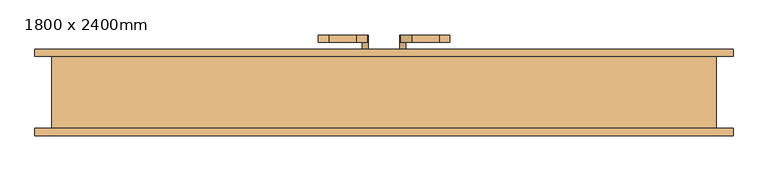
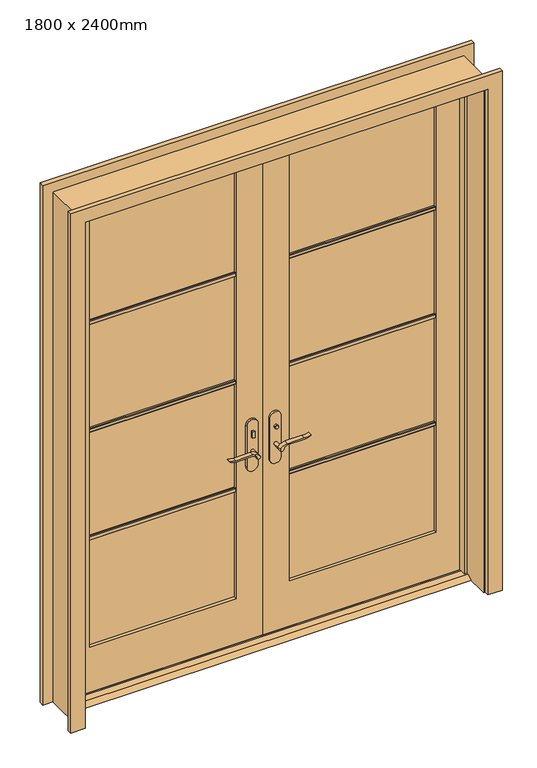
"""IFC4 building model written with IfcOpenShell, lengths in millimetres: door geometry, M_Dveře, vnější, dvoukřídlé, prosklené, dřevo, obklad : 1800 x 2400mm."""

from ifc_helpers import new_model, si_unit, point, frame, frame_2d, origin, place, context, project, spatial, polyline, circle_curve, trimmed, segment, composite_curve, outline, extrude, faceted_brep, source, transform, mapped, element, save


def door_1800_x_2400mm_5ec7ffea(model_context):
    return source(origin(), model_context, "Body", "SolidModel", [
        extrude(outline(polyline([(18.975, 15.0), (53.975, 15.0), (79.375, 0.0), (-6.425, 0.0), (18.975, 15.0)])), frame((-900.0, 0.0, 0.0), z_axis=(1.0, 0.0, 0.0), x_axis=(0.0, 1.0, 0.0)), (0.0, 0.0, 1.0), 1800.0),
        extrude(outline(polyline([(-47.4019111, 41.825), (-57.4019111, 41.825), (-57.4019111, 51.825), (-47.4019111, 51.825), (-47.4019111, 41.825)])), frame((0.0, 0.0, 981.9), z_axis=(0.0, 0.0, 1.0), x_axis=(1.0, 0.0, 0.0)), (0.0, 0.0, 1.0), 30.0),
        extrude(outline(composite_curve([segment(trimmed(circle_curve(frame_2d((996.9, -52.4019111)), 8.0), [point((996.9, -60.4019111))], [point((996.9, -44.4019111))], False, "CARTESIAN"), True, "CONTINUOUS"), segment(trimmed(circle_curve(frame_2d((996.9, -52.4019111)), 8.0), [point((996.9, -44.4019111))], [point((996.9, -60.4019111))], False, "CARTESIAN"), True, "CONTINUOUS")], self_intersect=False)), frame((0.0, 106.825, 0.0), z_axis=(0.0, 1.0, 0.0), x_axis=(0.0, 0.0, 1.0)), (0.0, 0.0, 1.0), 10.0),
        extrude(outline(composite_curve([segment(trimmed(circle_curve(frame_2d((897.1555521, -76.0694241)), 37.2832219), [point((919.0523287, -45.8937749))], [point((934.4, -77.7693445))], False, "CARTESIAN"), True, "CONTINUOUS"), segment(polyline([(934.4, -77.7693445), (934.4, -154.045502)]), True, "CONTINUOUS"), segment(trimmed(circle_curve(frame_2d((1017.6850638, -153.9791202)), 83.2850902), [point((934.4, -154.045502))], [point((939.4, -182.4019111))], True, "CARTESIAN"), True, "CONTINUOUS"), segment(polyline([(939.4, -182.4019111), (936.6135558, -182.4019111)]), True, "CONTINUOUS"), segment(trimmed(circle_curve(frame_2d((986.6709207, -150.4622499)), 59.3791355), [point((936.6135558, -182.4019111))], [point((927.4, -154.045502))], False, "CARTESIAN"), True, "CONTINUOUS"), segment(polyline([(927.4, -154.045502), (927.4, -77.7881013)]), True, "CONTINUOUS"), segment(trimmed(circle_curve(frame_2d((909.2738613, -77.7881013)), 18.1261387), [point((927.4, -77.7881013))], [point((914.4, -60.4019111))], True, "CARTESIAN"), True, "CONTINUOUS"), segment(trimmed(circle_curve(frame_2d((914.4, -52.4019111)), 8.0), [point((914.4, -60.4019111))], [point((919.0523287, -45.8937749))], False, "CARTESIAN"), True, "CONTINUOUS")], self_intersect=False)), frame((0.0, 1.825, 0.0), z_axis=(0.0, 1.0, 0.0), x_axis=(0.0, 0.0, 1.0)), (0.0, 0.0, 1.0), 20.0),
        extrude(outline(composite_curve([segment(trimmed(circle_curve(frame_2d((914.4, -52.4019111)), 8.0), [point((914.3999903, -60.4019111))], [point((919.0523287, -45.8937749))], False, "CARTESIAN"), True, "CONTINUOUS"), segment(trimmed(circle_curve(frame_2d((897.1555521, -76.0694241)), 37.2832219), [point((919.0523287, -45.8937749))], [point((934.4, -77.7693445))], False, "CARTESIAN"), True, "CONTINUOUS"), segment(polyline([(934.4, -77.7693445), (934.4, -154.045502)]), True, "CONTINUOUS"), segment(trimmed(circle_curve(frame_2d((1017.6850638, -153.9791202)), 83.2850902), [point((934.4, -154.045502))], [point((939.4, -182.4019111))], True, "CARTESIAN"), True, "CONTINUOUS"), segment(polyline([(939.4, -182.4019111), (936.6135558, -182.4019111)]), True, "CONTINUOUS"), segment(trimmed(circle_curve(frame_2d((986.6709207, -150.4622499)), 59.3791355), [point((936.6135558, -182.4019111))], [point((927.4, -154.045502))], False, "CARTESIAN"), True, "CONTINUOUS"), segment(polyline([(927.4, -154.045502), (927.4, -77.788099)]), True, "CONTINUOUS"), segment(trimmed(circle_curve(frame_2d((909.2738682, -77.788099)), 18.1261318), [point((927.4, -77.788099))], [point((914.3999903, -60.4019111))], True, "CARTESIAN"), True, "CONTINUOUS")], self_intersect=False)), frame((0.0, 136.825, 0.0), z_axis=(0.0, 1.0, 0.0), x_axis=(0.0, 0.0, 1.0)), (0.0, 0.0, 1.0), 20.0),
        extrude(outline(composite_curve([segment(trimmed(circle_curve(frame_2d((914.4, -52.4019111)), 8.0), [point((914.4, -60.4019111))], [point((914.4, -44.4019111))], False, "CARTESIAN"), True, "CONTINUOUS"), segment(trimmed(circle_curve(frame_2d((914.4, -52.4019111)), 8.0), [point((914.4, -44.4019111))], [point((914.4, -60.4019111))], False, "CARTESIAN"), True, "CONTINUOUS")], self_intersect=False)), frame((0.0, 21.825, 0.0), z_axis=(0.0, 1.0, 0.0), x_axis=(0.0, 0.0, 1.0)), (0.0, 0.0, 1.0), 30.0),
        extrude(outline(composite_curve([segment(trimmed(circle_curve(frame_2d((914.4, -52.4019111)), 8.0), [point((914.4, -60.4019111))], [point((914.4, -44.4019111))], False, "CARTESIAN"), True, "CONTINUOUS"), segment(trimmed(circle_curve(frame_2d((914.4, -52.4019111)), 8.0), [point((914.4, -44.4019111))], [point((914.4, -60.4019111))], False, "CARTESIAN"), True, "CONTINUOUS")], self_intersect=False)), frame((0.0, 106.825, 0.0), z_axis=(0.0, 1.0, 0.0), x_axis=(0.0, 0.0, 1.0)), (0.0, 0.0, 1.0), 30.0),
        extrude(outline(composite_curve([segment(polyline([(844.4, -27.4019111), (1039.4, -27.4019111)]), True, "CONTINUOUS"), segment(trimmed(circle_curve(frame_2d((1039.4, -52.4019111)), 25.0), [point((1039.4, -27.4019111))], [point((1039.4, -77.4019111))], False, "CARTESIAN"), True, "CONTINUOUS"), segment(polyline([(1039.4, -77.4019111), (844.4, -77.4019111)]), True, "CONTINUOUS"), segment(trimmed(circle_curve(frame_2d((844.4, -52.4019111)), 25.0), [point((844.4, -77.4019111))], [point((844.4, -27.4019111))], False, "CARTESIAN"), True, "CONTINUOUS")], self_intersect=False)), frame((0.0, 51.825, 0.0), z_axis=(0.0, 1.0, 0.0), x_axis=(0.0, 0.0, 1.0)), (0.0, 0.0, 1.0), 10.0),
        extrude(outline(composite_curve([segment(polyline([(844.4, -27.4019111), (1039.4, -27.4019111)]), True, "CONTINUOUS"), segment(trimmed(circle_curve(frame_2d((1039.4, -52.4019111)), 25.0), [point((1039.4, -27.4019111))], [point((1039.4, -77.4019111))], False, "CARTESIAN"), True, "CONTINUOUS"), segment(polyline([(1039.4, -77.4019111), (844.4, -77.4019111)]), True, "CONTINUOUS"), segment(trimmed(circle_curve(frame_2d((844.4, -52.4019111)), 25.0), [point((844.4, -77.4019111))], [point((844.4, -27.4019111))], False, "CARTESIAN"), True, "CONTINUOUS")], self_intersect=False)), frame((0.0, 96.825, 0.0), z_axis=(0.0, 1.0, 0.0), x_axis=(0.0, 0.0, 1.0)), (0.0, 0.0, 1.0), 10.0),
        extrude(outline(polyline([(47.3875, 116.825), (57.3875, 116.825), (57.3875, 106.825), (47.3875, 106.825), (47.3875, 116.825)])), frame((0.0, 0.0, 981.9), z_axis=(0.0, 0.0, 1.0), x_axis=(1.0, 0.0, 0.0)), (0.0, 0.0, 1.0), 30.0),
        extrude(outline(composite_curve([segment(trimmed(circle_curve(frame_2d((996.9, 52.3875)), 8.0), [point((996.9, 60.3875))], [point((996.9, 44.3875))], False, "CARTESIAN"), True, "CONTINUOUS"), segment(trimmed(circle_curve(frame_2d((996.9, 52.3875)), 8.0), [point((996.9, 44.3875))], [point((996.9, 60.3875))], False, "CARTESIAN"), True, "CONTINUOUS")], self_intersect=False)), frame((0.0, 41.825, 0.0), z_axis=(0.0, 1.0, 0.0), x_axis=(0.0, 0.0, 1.0)), (0.0, 0.0, 1.0), 10.0),
        extrude(outline(composite_curve([segment(trimmed(circle_curve(frame_2d((914.4, 52.3875)), 8.0), [point((919.0523287, 45.8793637))], [point((914.4, 60.3875))], False, "CARTESIAN"), True, "CONTINUOUS"), segment(trimmed(circle_curve(frame_2d((909.2738613, 77.7736901)), 18.1261387), [point((914.4, 60.3875))], [point((927.4, 77.7736901))], True, "CARTESIAN"), True, "CONTINUOUS"), segment(polyline([(927.4, 77.7736901), (927.4, 154.0310909)]), True, "CONTINUOUS"), segment(trimmed(circle_curve(frame_2d((986.6709207, 150.4478388)), 59.3791355), [point((927.4, 154.0310909))], [point((936.6135558, 182.3875))], False, "CARTESIAN"), True, "CONTINUOUS"), segment(polyline([(936.6135558, 182.3875), (939.4, 182.3875)]), True, "CONTINUOUS"), segment(trimmed(circle_curve(frame_2d((1017.6850638, 153.9647091)), 83.2850902), [point((939.4, 182.3875))], [point((934.4, 154.0310909))], True, "CARTESIAN"), True, "CONTINUOUS"), segment(polyline([(934.4, 154.0310909), (934.4, 77.7549333)]), True, "CONTINUOUS"), segment(trimmed(circle_curve(frame_2d((897.1555521, 76.0550129)), 37.2832219), [point((934.4, 77.7549333))], [point((919.0523287, 45.8793637))], False, "CARTESIAN"), True, "CONTINUOUS")], self_intersect=False)), frame((0.0, 136.825, 0.0), z_axis=(0.0, 1.0, 0.0), x_axis=(0.0, 0.0, 1.0)), (0.0, 0.0, 1.0), 20.0),
        extrude(outline(composite_curve([segment(trimmed(circle_curve(frame_2d((909.2738682, 77.7736878)), 18.1261318), [point((914.3999903, 60.3875))], [point((927.4, 77.7736878))], True, "CARTESIAN"), True, "CONTINUOUS"), segment(polyline([(927.4, 77.7736878), (927.4, 154.0310909)]), True, "CONTINUOUS"), segment(trimmed(circle_curve(frame_2d((986.6709207, 150.4478388)), 59.3791355), [point((927.4, 154.0310909))], [point((936.6135558, 182.3875))], False, "CARTESIAN"), True, "CONTINUOUS"), segment(polyline([(936.6135558, 182.3875), (939.4, 182.3875)]), True, "CONTINUOUS"), segment(trimmed(circle_curve(frame_2d((1017.6850638, 153.9647091)), 83.2850902), [point((939.4, 182.3875))], [point((934.4, 154.0310909))], True, "CARTESIAN"), True, "CONTINUOUS"), segment(polyline([(934.4, 154.0310909), (934.4, 77.7549333)]), True, "CONTINUOUS"), segment(trimmed(circle_curve(frame_2d((897.1555521, 76.0550129)), 37.2832219), [point((934.4, 77.7549333))], [point((919.0523287, 45.8793637))], False, "CARTESIAN"), True, "CONTINUOUS"), segment(trimmed(circle_curve(frame_2d((914.4, 52.3875)), 8.0), [point((919.0523287, 45.8793637))], [point((914.3999903, 60.3875))], False, "CARTESIAN"), True, "CONTINUOUS")], self_intersect=False)), frame((0.0, 1.825, 0.0), z_axis=(0.0, 1.0, 0.0), x_axis=(0.0, 0.0, 1.0)), (0.0, 0.0, 1.0), 20.0),
        extrude(outline(composite_curve([segment(trimmed(circle_curve(frame_2d((914.4, 52.3875)), 8.0), [point((914.4, 60.3875))], [point((914.4, 44.3875))], False, "CARTESIAN"), True, "CONTINUOUS"), segment(trimmed(circle_curve(frame_2d((914.4, 52.3875)), 8.0), [point((914.4, 44.3875))], [point((914.4, 60.3875))], False, "CARTESIAN"), True, "CONTINUOUS")], self_intersect=False)), frame((0.0, 106.825, 0.0), z_axis=(0.0, 1.0, 0.0), x_axis=(0.0, 0.0, 1.0)), (0.0, 0.0, 1.0), 30.0),
        extrude(outline(composite_curve([segment(trimmed(circle_curve(frame_2d((914.4, 52.3875)), 8.0), [point((914.4, 60.3875))], [point((914.4, 44.3875))], False, "CARTESIAN"), True, "CONTINUOUS"), segment(trimmed(circle_curve(frame_2d((914.4, 52.3875)), 8.0), [point((914.4, 44.3875))], [point((914.4, 60.3875))], False, "CARTESIAN"), True, "CONTINUOUS")], self_intersect=False)), frame((0.0, 21.825, 0.0), z_axis=(0.0, 1.0, 0.0), x_axis=(0.0, 0.0, 1.0)), (0.0, 0.0, 1.0), 30.0),
        extrude(outline(composite_curve([segment(trimmed(circle_curve(frame_2d((844.4, 52.3875)), 25.0), [point((844.4, 27.3875))], [point((844.4, 77.3875))], False, "CARTESIAN"), True, "CONTINUOUS"), segment(polyline([(844.4, 77.3875), (1039.4, 77.3875)]), True, "CONTINUOUS"), segment(trimmed(circle_curve(frame_2d((1039.4, 52.3875)), 25.0), [point((1039.4, 77.3875))], [point((1039.4, 27.3875))], False, "CARTESIAN"), True, "CONTINUOUS"), segment(polyline([(1039.4, 27.3875), (844.4, 27.3875)]), True, "CONTINUOUS")], self_intersect=False)), frame((0.0, 96.825, 0.0), z_axis=(0.0, 1.0, 0.0), x_axis=(0.0, 0.0, 1.0)), (0.0, 0.0, 1.0), 10.0),
        extrude(outline(composite_curve([segment(trimmed(circle_curve(frame_2d((844.4, 52.3875)), 25.0), [point((844.4, 27.3875))], [point((844.4, 77.3875))], False, "CARTESIAN"), True, "CONTINUOUS"), segment(polyline([(844.4, 77.3875), (1039.4, 77.3875)]), True, "CONTINUOUS"), segment(trimmed(circle_curve(frame_2d((1039.4, 52.3875)), 25.0), [point((1039.4, 77.3875))], [point((1039.4, 27.3875))], False, "CARTESIAN"), True, "CONTINUOUS"), segment(polyline([(1039.4, 27.3875), (844.4, 27.3875)]), True, "CONTINUOUS")], self_intersect=False)), frame((0.0, 51.825, 0.0), z_axis=(0.0, 1.0, 0.0), x_axis=(0.0, 0.0, 1.0)), (0.0, 0.0, 1.0), 10.0),
        extrude(outline(polyline([(75.825, 1777.025), (75.825, 1757.975), (69.475, 1757.975), (66.3, 1761.15), (66.3, 1773.85), (69.475, 1777.025), (75.825, 1777.025)])), frame((120.0, 0.0, 0.0), z_axis=(1.0, 0.0, 0.0), x_axis=(0.0, 1.0, 0.0)), (0.0, 0.0, 1.0), 660.0),
        extrude(outline(polyline([(75.825, 1264.525), (75.825, 1245.475), (69.475, 1245.475), (66.3, 1248.65), (66.3, 1261.35), (69.475, 1264.525), (75.825, 1264.525)])), frame((120.0, 0.0, 0.0), z_axis=(1.0, 0.0, 0.0), x_axis=(0.0, 1.0, 0.0)), (0.0, 0.0, 1.0), 660.0),
        extrude(outline(polyline([(75.825, 752.025), (75.825, 732.975), (69.475, 732.975), (66.3, 736.15), (66.3, 748.85), (69.475, 752.025), (75.825, 752.025)])), frame((120.0, 0.0, 0.0), z_axis=(1.0, 0.0, 0.0), x_axis=(0.0, 1.0, 0.0)), (0.0, 0.0, 1.0), 660.0),
        extrude(outline(polyline([(82.825, 1777.025), (89.175, 1777.025), (92.35, 1773.85), (92.35, 1761.15), (89.175, 1757.975), (82.825, 1757.975), (82.825, 1777.025)])), frame((-780.0, 0.0, 0.0), z_axis=(1.0, 0.0, 0.0), x_axis=(0.0, 1.0, 0.0)), (0.0, 0.0, 1.0), 660.0),
        extrude(outline(polyline([(82.825, 1264.525), (89.175, 1264.525), (92.35, 1261.35), (92.35, 1248.65), (89.175, 1245.475), (82.825, 1245.475), (82.825, 1264.525)])), frame((-780.0, 0.0, 0.0), z_axis=(1.0, 0.0, 0.0), x_axis=(0.0, 1.0, 0.0)), (0.0, 0.0, 1.0), 660.0),
        extrude(outline(polyline([(82.825, 752.025), (89.175, 752.025), (92.35, 748.85), (92.35, 736.15), (89.175, 732.975), (82.825, 732.975), (82.825, 752.025)])), frame((-780.0, 0.0, 0.0), z_axis=(1.0, 0.0, 0.0), x_axis=(0.0, 1.0, 0.0)), (0.0, 0.0, 1.0), 660.0),
        extrude(outline(polyline([(82.825, 1777.025), (89.175, 1777.025), (92.35, 1773.85), (92.35, 1761.15), (89.175, 1757.975), (82.825, 1757.975), (82.825, 1777.025)])), frame((120.0, 0.0, 0.0), z_axis=(1.0, 0.0, 0.0), x_axis=(0.0, 1.0, 0.0)), (0.0, 0.0, 1.0), 660.0),
        extrude(outline(polyline([(82.825, 1264.525), (89.175, 1264.525), (92.35, 1261.35), (92.35, 1248.65), (89.175, 1245.475), (82.825, 1245.475), (82.825, 1264.525)])), frame((120.0, 0.0, 0.0), z_axis=(1.0, 0.0, 0.0), x_axis=(0.0, 1.0, 0.0)), (0.0, 0.0, 1.0), 660.0),
        extrude(outline(polyline([(82.825, 752.025), (89.175, 752.025), (92.35, 748.85), (92.35, 736.15), (89.175, 732.975), (82.825, 732.975), (82.825, 752.025)])), frame((120.0, 0.0, 0.0), z_axis=(1.0, 0.0, 0.0), x_axis=(0.0, 1.0, 0.0)), (0.0, 0.0, 1.0), 660.0),
        extrude(outline(polyline([(75.825, 1777.025), (75.825, 1757.975), (69.475, 1757.975), (66.3, 1761.15), (66.3, 1773.85), (69.475, 1777.025), (75.825, 1777.025)])), frame((-780.0, 0.0, 0.0), z_axis=(1.0, 0.0, 0.0), x_axis=(0.0, 1.0, 0.0)), (0.0, 0.0, 1.0), 660.0),
        extrude(outline(polyline([(75.825, 1264.525), (75.825, 1245.475), (69.475, 1245.475), (66.3, 1248.65), (66.3, 1261.35), (69.475, 1264.525), (75.825, 1264.525)])), frame((-780.0, 0.0, 0.0), z_axis=(1.0, 0.0, 0.0), x_axis=(0.0, 1.0, 0.0)), (0.0, 0.0, 1.0), 660.0),
        extrude(outline(polyline([(75.825, 752.025), (75.825, 732.975), (69.475, 732.975), (66.3, 736.15), (66.3, 748.85), (69.475, 752.025), (75.825, 752.025)])), frame((-780.0, 0.0, 0.0), z_axis=(1.0, 0.0, 0.0), x_axis=(0.0, 1.0, 0.0)), (0.0, 0.0, 1.0), 660.0),
        extrude(outline(polyline([(0.0, 906.35), (0.0, 971.35), (2471.35, 971.35), (2471.35, -971.35), (0.0, -971.35), (0.0, -906.35), (2406.35, -906.35), (2406.35, 906.35), (0.0, 906.35)])), frame((0.0, -123.175, 0.0), z_axis=(0.0, 1.0, 0.0), x_axis=(0.0, 0.0, 1.0)), (0.0, 0.0, 1.0), 20.0),
        extrude(outline(polyline([(0.0, 906.35), (0.0, 971.35), (2471.35, 971.35), (2471.35, -971.35), (0.0, -971.35), (0.0, -906.35), (2406.35, -906.35), (2406.35, 906.35), (0.0, 906.35)])), frame((0.0, 96.825, 0.0), z_axis=(0.0, 1.0, 0.0), x_axis=(0.0, 0.0, 1.0)), (0.0, 0.0, 1.0), 20.0),
        faceted_brep([(925.0, 96.825, 0.0), (925.0, -103.175, 0.0), (900.0, -103.175, 0.0), (900.0, 26.9, 0.0), (887.3, 26.9, 0.0), (887.3, 61.825, 0.0), (900.0, 61.825, 0.0), (900.0, 96.825, 0.0), (925.0, 96.825, 2425.0), (925.0, -103.175, 2425.0), (-925.0, -103.175, 2425.0), (-925.0, -103.175, 0.0), (-900.0, -103.175, 0.0), (-900.0, -103.175, 2400.0), (900.0, -103.175, 2400.0), (900.0, 26.9, 2400.0), (-900.0, 26.9, 2400.0), (-900.0, 26.9, 0.0), (-887.3, 26.9, 0.0), (-887.3, 26.9, 2387.3), (887.3, 26.9, 2387.3), (887.3, 61.825, 2387.3), (1.5875, 61.825, 2387.3), (-1.6019111, 61.825, 2387.3), (-887.3, 61.825, 2387.3), (-887.3, 61.825, 0.0), (-900.0, 61.825, 0.0), (-900.0, 61.825, 2400.0), (-1.6019111, 61.825, 2400.0), (1.5875, 61.825, 2400.0), (900.0, 61.825, 2400.0), (900.0, 96.825, 2400.0), (1.5875, 96.825, 2400.0), (-1.6019111, 96.825, 2400.0), (-900.0, 96.825, 2400.0), (-900.0, 96.825, 0.0), (-925.0, 96.825, 0.0), (-925.0, 96.825, 2425.0)], [[[0, 1, 2, 3, 4, 5, 6, 7]], [[1, 0, 8, 9]], [[2, 1, 9, 10, 11, 12, 13, 14]], [[3, 2, 14, 15]], [[4, 3, 15, 16, 17, 18, 19, 20]], [[5, 4, 20, 21]], [[6, 5, 21, 22, 23, 24, 25, 26, 27, 28, 29, 30]], [[7, 6, 30, 31]], [[0, 7, 31, 32, 33, 34, 35, 36, 37, 8]], [[9, 8, 37, 10]], [[14, 13, 16, 15]], [[20, 19, 24, 23, 22, 21]], [[31, 30, 29, 28, 27, 34, 33, 32]], [[12, 11, 36, 35, 26, 25, 18, 17]], [[11, 10, 37, 36]], [[13, 12, 17, 16]], [[19, 18, 25, 24]], [[27, 26, 35, 34]]]),
        extrude(outline(polyline([(15.0, 900.0), (2400.0, 900.0), (2400.0, 1.5875), (15.0, 1.5875), (15.0, 900.0)]), holes=[polyline([(2280.0, 120.0), (2280.0, 780.0), (230.0, 780.0), (230.0, 120.0), (2280.0, 120.0)])]), frame((0.0, 61.825, 0.0), z_axis=(0.0, 1.0, 0.0), x_axis=(0.0, 0.0, 1.0)), (0.0, 0.0, 1.0), 35.0),
        extrude(outline(polyline([(2400.0, -900.0), (15.0, -900.0), (15.0, -1.6019111), (2400.0, -1.6019111), (2400.0, -900.0)]), holes=[polyline([(230.0, -780.0), (2280.0, -780.0), (2280.0, -120.0), (230.0, -120.0), (230.0, -780.0)])]), frame((0.0, 61.825, 0.0), z_axis=(0.0, 1.0, 0.0), x_axis=(0.0, 0.0, 1.0)), (0.0, 0.0, 1.0), 35.0),
        extrude(outline(polyline([(780.0, 75.825), (120.0, 75.825), (120.0, 82.825), (780.0, 82.825), (780.0, 75.825)])), frame((0.0, 0.0, 230.0), z_axis=(0.0, 0.0, 1.0), x_axis=(1.0, 0.0, 0.0)), (0.0, 0.0, 1.0), 2050.0),
        extrude(outline(polyline([(-120.0, 75.825), (-780.0, 75.825), (-780.0, 82.825), (-120.0, 82.825), (-120.0, 75.825)])), frame((0.0, 0.0, 230.0), z_axis=(0.0, 0.0, 1.0), x_axis=(1.0, 0.0, 0.0)), (0.0, 0.0, 1.0), 2050.0),
    ])


if __name__ == "__main__":
    model = new_model("IFC4")
    model_context = context("Model", 3, world=origin())
    ifc_project = project(units=[si_unit("LENGTHUNIT", "METRE", prefix="MILLI")], contexts=[model_context])
    site = spatial("IfcSite", under=ifc_project)
    building = spatial("IfcBuilding", under=site)
    placement = place(None, origin())
    door_1800_x_2400mm_shape = door_1800_x_2400mm_5ec7ffea(model_context)
    element("IfcDoor", 1, ObjectType="M_Dveře, vnější, dvoukřídlé, prosklené, dřevo, obklad : 1800 x 2400mm", at=placement, inside=building, context=model_context, shape_type="MappedRepresentation", body=[
        mapped(door_1800_x_2400mm_shape, transform((0.0, 0.0, 0.0), x_axis=(1.0, 0.0, 0.0), y_axis=(0.0, 1.0, 0.0), z_axis=(0.0, 0.0, 1.0))),
    ])
    save(model, "model.ifc")
